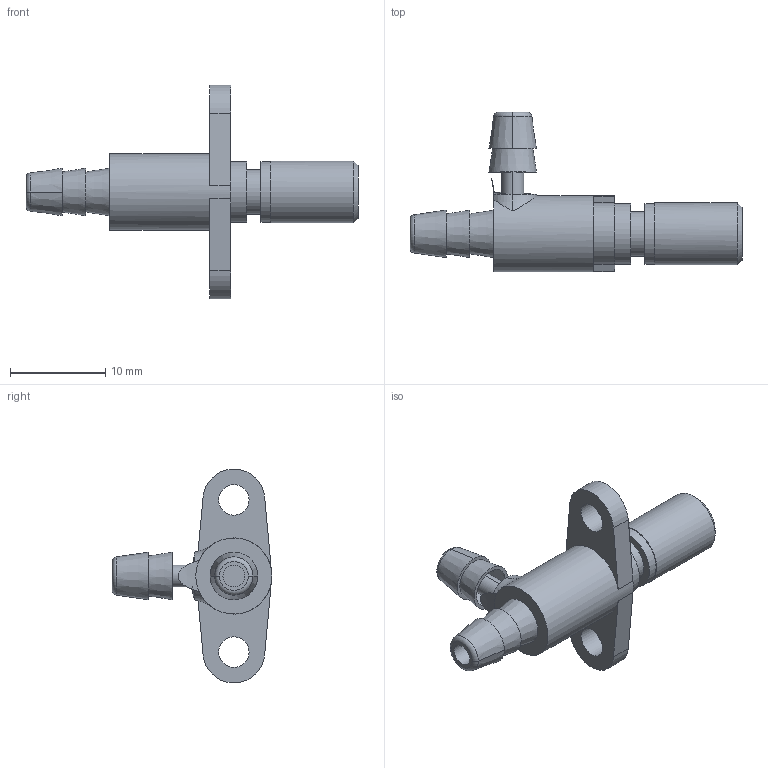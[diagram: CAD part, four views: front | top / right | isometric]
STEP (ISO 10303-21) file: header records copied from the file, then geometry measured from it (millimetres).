
FILE_DESCRIPTION(/* description */ ('SolidWorks IGES file using NURBS representation for surfaces '),/* implementation_level */ '2;1');
FILE_NAME(/* name */ 'K:\Normteile INVENTOR\Air-Logic\Needle Valves\F-2822-41-B85-K.IGS.ipt.stp',/* time_stamp */ '2020-05-27T10:43:07+02:00',/* author */ ('amarsh'),/* organization */ (''),/* preprocessor_version */ 'ST-DEVELOPER v18',/* originating_system */ 'Autodesk Inventor 2020',/* authorisation */ '');
FILE_SCHEMA (('AUTOMOTIVE_DESIGN { 1 0 10303 214 3 1 1 }'));
Length unit declared in the file: millimetre
Products named in the file (1): F-2822-41-B85-K.IGS
Bounding box: 34.9 x 16.8 x 22.48 mm (x, y, z)
Volume: 1453.1 mm3; surface area: 1405.4 mm2
Topology: 2 solids, 2 shells, 50 faces, 126 edges, 90 vertices
Faces by surface type: plane 20, cylinder 13, cone 9, torus 7, bspline 1
Full cylindrical faces by diameter (mm): 2.3 x1, 3.2 x2, 4.7 x1, 6.35 x1, 6.4 x1, 6.5 x1, 8 x1
Entity records: 1731 total; most frequent: CARTESIAN_POINT 386, DIRECTION 299, ORIENTED_EDGE 252, AXIS2_PLACEMENT_3D 131, EDGE_CURVE 126, VERTEX_POINT 90, CIRCLE 81, EDGE_LOOP 64
